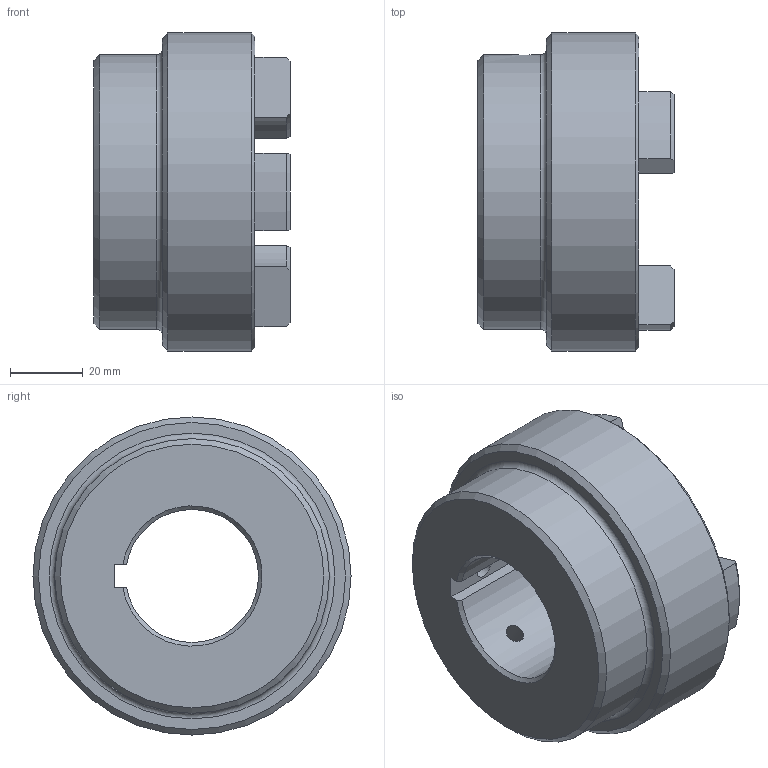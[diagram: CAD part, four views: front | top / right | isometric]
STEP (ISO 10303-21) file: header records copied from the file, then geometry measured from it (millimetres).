
FILE_DESCRIPTION (( 'STEP AP203' ), '1' );
FILE_NAME ('RC3.step', '2024-07-24T12:51:19', ( 'Adlan' ), ( '' ), 'SwSTEP 2.0', 'SolidWorks 2013', '' );
FILE_SCHEMA (( 'CONFIG_CONTROL_DESIGN' ));
Length unit declared in the file: inch
Products named in the file (1): RC3
Bounding box: 53.85 x 87.38 x 87.38 mm (x, y, z)
Volume: 160560.4 mm3; surface area: 30413.4 mm2
Topology: 1 solids, 1 shells, 67 faces, 168 edges, 105 vertices
Faces by surface type: cylinder 26, plane 16, torus 13, cone 12
Full cylindrical faces by diameter (mm): 5.105 x2, 75.438 x1, 87.376 x1
Entity records: 2243 total; most frequent: CARTESIAN_POINT 568, DIRECTION 354, ORIENTED_EDGE 310, EDGE_CURVE 155, AXIS2_PLACEMENT_3D 142, VERTEX_POINT 102, EDGE_LOOP 85, CIRCLE 74
